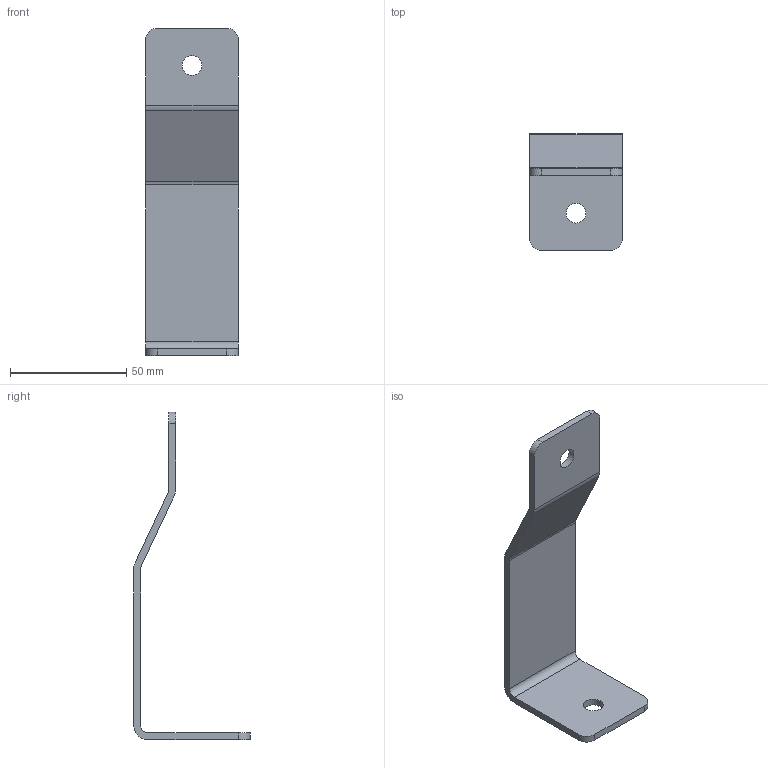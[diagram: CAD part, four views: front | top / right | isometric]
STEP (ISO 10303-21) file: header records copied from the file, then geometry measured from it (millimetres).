
FILE_DESCRIPTION(/* description */ ('BEAM SUPPORT 40x40 UNIVERSAL'),/* implementation_level */ '2;1');
FILE_NAME(/* name */ '500-1220.stp',/* time_stamp */ '2022-09-16T08:27:16+02:00',/* author */ ('ML'),/* organization */ ('CARRYLINE'),/* preprocessor_version */ 'ST-DEVELOPER v19.2',/* originating_system */ 'Autodesk Inventor 2023',/* authorisation */ '');
FILE_SCHEMA (('AUTOMOTIVE_DESIGN { 1 0 10303 214 3 1 1 }'));
Length unit declared in the file: millimetre
Products named in the file (1): 500-1220
Bounding box: 40 x 50.11 x 140.98 mm (x, y, z)
Volume: 22327.9 mm3; surface area: 16396.4 mm2
Topology: 1 solids, 1 shells, 24 faces, 66 edges, 44 vertices
Faces by surface type: cylinder 12, plane 12
Full cylindrical faces by diameter (mm): 8.5 x2
Entity records: 825 total; most frequent: DIRECTION 140, CARTESIAN_POINT 135, ORIENTED_EDGE 132, EDGE_CURVE 66, AXIS2_PLACEMENT_3D 49, VERTEX_POINT 44, LINE 42, VECTOR 42
